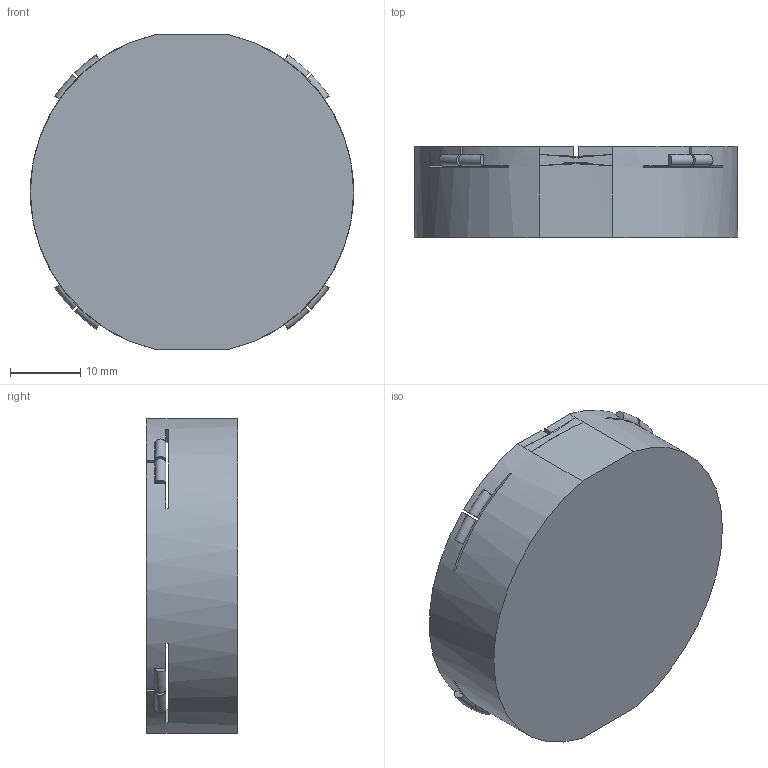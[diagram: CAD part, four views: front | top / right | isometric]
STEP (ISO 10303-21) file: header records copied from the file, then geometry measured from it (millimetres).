
FILE_DESCRIPTION (( 'STEP AP203' ), '1' );
FILE_NAME ('縐諶耀倰裔.STEP', '2024-11-19T06:24:26', ( 'BBL' ), ( 'BBL' ), 'SwSTEP 2.0', 'SolidWorks 2024', '' );
FILE_SCHEMA (( 'CONFIG_CONTROL_DESIGN' ));
Length unit declared in the file: millimetre
Products named in the file (1): 卡扣模型盖
Bounding box: 46 x 13 x 44.8 mm (x, y, z)
Volume: 8212.4 mm3; surface area: 8254.1 mm2
Topology: 1 solids, 1 shells, 112 faces, 304 edges, 197 vertices
Faces by surface type: plane 71, torus 17, cylinder 16, bspline 6, cone 2
Entity records: 3879 total; most frequent: CARTESIAN_POINT 995, ORIENTED_EDGE 608, DIRECTION 582, EDGE_CURVE 304, AXIS2_PLACEMENT_3D 216, VERTEX_POINT 197, VECTOR 150, LINE 150
